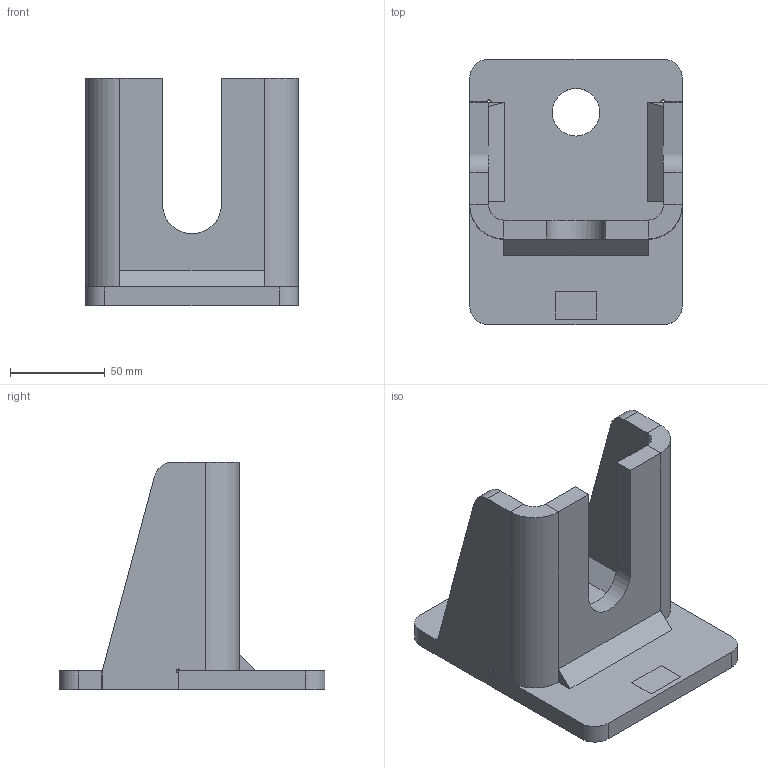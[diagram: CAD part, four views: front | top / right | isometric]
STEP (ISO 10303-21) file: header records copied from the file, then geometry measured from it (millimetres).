
FILE_DESCRIPTION(/* description */ ('Einfachkonsole Gr.5 geschweißt'),/* implementation_level */ '2;1');
FILE_NAME(/* name */ 'C:\Users\avlesti\Desktop\010335350.stp',/* time_stamp */ '2021-03-29T14:17:48+02:00',/* author */ ('avlesti'),/* organization */ (''),/* preprocessor_version */ 'ST-DEVELOPER v17.2',/* originating_system */ 'Autodesk Inventor 2019',/* authorisation */ '');
FILE_SCHEMA (('AUTOMOTIVE_DESIGN { 1 0 10303 214 3 1 1 }'));
Length unit declared in the file: millimetre
Products named in the file (4): 010335350; 010335350_1; 010335350_1_1; 010335350_2
Assembly tree (3 placements, depth 2):
  010335350
    010335350_1
    010335350_1_1
    010335350_2
Bounding box: 112 x 140 x 120 mm (x, y, z)
Volume: 347783.5 mm3; surface area: 87947.2 mm2
Topology: 5 solids, 5 shells, 79 faces, 188 edges, 120 vertices
Faces by surface type: plane 61, cylinder 18
Full cylindrical faces by diameter (mm): 25 x1
Entity records: 2422 total; most frequent: DIRECTION 398, CARTESIAN_POINT 395, ORIENTED_EDGE 376, EDGE_CURVE 188, LINE 152, VECTOR 152, AXIS2_PLACEMENT_3D 123, VERTEX_POINT 120
